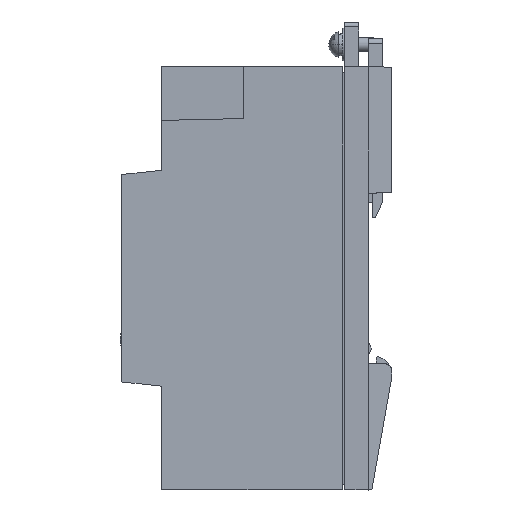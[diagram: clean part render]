
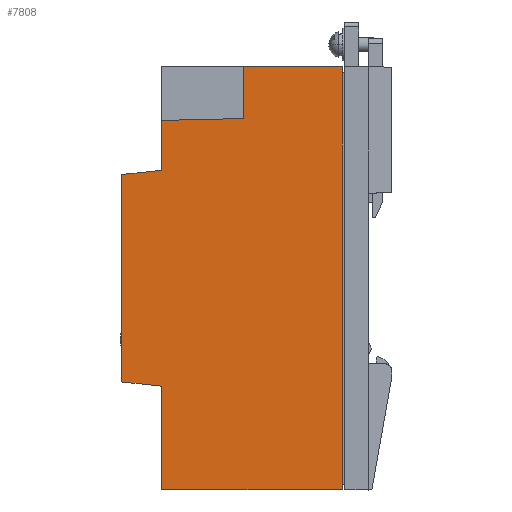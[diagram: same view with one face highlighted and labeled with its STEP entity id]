
A CAD part, left-side view. The second image highlights one B-rep face of the part: STEP entity #7808.
In plain terms, the highlighted planar face has unit normal (-1, 0, 0).
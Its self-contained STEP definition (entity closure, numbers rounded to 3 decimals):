
#78 = CARTESIAN_POINT ( 'NONE',  ( -157., 38.5, -45. ) ) ;
#395 = ORIENTED_EDGE ( 'NONE', *, *, #57551, .F. ) ;
#587 = ORIENTED_EDGE ( 'NONE', *, *, #53732, .T. ) ;
#923 = PLANE ( 'NONE',  #32064 ) ;
#1013 = CARTESIAN_POINT ( 'NONE',  ( -157., 21., 34. ) ) ;
#1277 = VECTOR ( 'NONE', #35099, 1000. ) ;
#2418 = CARTESIAN_POINT ( 'NONE',  ( -157., 0., 45. ) ) ;
#3192 = VECTOR ( 'NONE', #25997, 1000. ) ;
#3905 = CARTESIAN_POINT ( 'NONE',  ( -157., 21., 45. ) ) ;
#5249 = CARTESIAN_POINT ( 'NONE',  ( -157., 0., 45. ) ) ;
#5650 = EDGE_CURVE ( 'NONE', #27849, #24491, #40552, .T. ) ;
#6253 = VECTOR ( 'NONE', #32940, 1000. ) ;
#7218 = LINE ( 'NONE', #41295, #55283 ) ;
#7282 = DIRECTION ( 'NONE',  ( 1., 0., 0. ) ) ;
#7808 = ADVANCED_FACE ( 'NONE', ( #26344 ), #923, .F. ) ;
#8071 = ORIENTED_EDGE ( 'NONE', *, *, #14289, .F. ) ;
#10825 = VERTEX_POINT ( 'NONE', #20072 ) ;
#11443 = LINE ( 'NONE', #55427, #22424 ) ;
#11634 = VECTOR ( 'NONE', #41226, 1000. ) ;
#12149 = DIRECTION ( 'NONE',  ( 0., 0., -1. ) ) ;
#13090 = VECTOR ( 'NONE', #27187, 1000. ) ;
#14289 = EDGE_CURVE ( 'NONE', #17890, #27849, #37050, .T. ) ;
#14318 = CARTESIAN_POINT ( 'NONE',  ( -157., 0., -45. ) ) ;
#14790 = VERTEX_POINT ( 'NONE', #3905 ) ;
#15008 = VERTEX_POINT ( 'NONE', #1013 ) ;
#15751 = VECTOR ( 'NONE', #47589, 1000. ) ;
#16613 = VECTOR ( 'NONE', #33077, 1000. ) ;
#17065 = LINE ( 'NONE', #25786, #3192 ) ;
#17890 = VERTEX_POINT ( 'NONE', #55343 ) ;
#20072 = CARTESIAN_POINT ( 'NONE',  ( -157., 47., -22.08 ) ) ;
#20991 = ORIENTED_EDGE ( 'NONE', *, *, #21022, .T. ) ;
#21022 = EDGE_CURVE ( 'NONE', #14790, #15008, #17065, .T. ) ;
#22424 = VECTOR ( 'NONE', #36930, 1000. ) ;
#22519 = CARTESIAN_POINT ( 'NONE',  ( -157., 0., 45. ) ) ;
#24491 = VERTEX_POINT ( 'NONE', #50925 ) ;
#25786 = CARTESIAN_POINT ( 'NONE',  ( -157., 21., 45. ) ) ;
#25997 = DIRECTION ( 'NONE',  ( 0., 0., -1. ) ) ;
#26344 = FACE_OUTER_BOUND ( 'NONE', #44962, .T. ) ;
#27187 = DIRECTION ( 'NONE',  ( 0., 0., -1. ) ) ;
#27455 = DIRECTION ( 'NONE',  ( 0., -0.995, 0.105 ) ) ;
#27849 = VERTEX_POINT ( 'NONE', #34148 ) ;
#30415 = CARTESIAN_POINT ( 'NONE',  ( -157., 47., -22.08 ) ) ;
#31257 = EDGE_CURVE ( 'NONE', #24491, #10825, #49306, .T. ) ;
#32064 = AXIS2_PLACEMENT_3D ( 'NONE', #36698, #7282, #12149 ) ;
#32428 = LINE ( 'NONE', #46789, #6253 ) ;
#32940 = DIRECTION ( 'NONE',  ( 0., 1., -0.023 ) ) ;
#33077 = DIRECTION ( 'NONE',  ( 0., -1., 0. ) ) ;
#34148 = CARTESIAN_POINT ( 'NONE',  ( -157., 38.5, -45. ) ) ;
#35099 = DIRECTION ( 'NONE',  ( 0., 0.995, 0.105 ) ) ;
#36540 = CARTESIAN_POINT ( 'NONE',  ( -157., 47., 22.08 ) ) ;
#36698 = CARTESIAN_POINT ( 'NONE',  ( -157., 38.5, 22.973 ) ) ;
#36930 = DIRECTION ( 'NONE',  ( 0., 0., 1. ) ) ;
#37050 = LINE ( 'NONE', #14318, #49370 ) ;
#37899 = LINE ( 'NONE', #22519, #13090 ) ;
#40164 = ORIENTED_EDGE ( 'NONE', *, *, #5650, .F. ) ;
#40387 = EDGE_CURVE ( 'NONE', #49729, #49202, #7218, .T. ) ;
#40552 = LINE ( 'NONE', #78, #15751 ) ;
#40560 = ORIENTED_EDGE ( 'NONE', *, *, #52566, .F. ) ;
#40761 = CARTESIAN_POINT ( 'NONE',  ( -157., 47., 22.08 ) ) ;
#41226 = DIRECTION ( 'NONE',  ( 0., 0., 1. ) ) ;
#41295 = CARTESIAN_POINT ( 'NONE',  ( -157., 47., 22.08 ) ) ;
#42248 = DIRECTION ( 'NONE',  ( 0., 1., 0. ) ) ;
#42708 = CARTESIAN_POINT ( 'NONE',  ( -157., 38.5, 22.973 ) ) ;
#44962 = EDGE_LOOP ( 'NONE', ( #20991, #587, #50520, #55131, #395, #45131, #40164, #8071, #49505, #40560 ) ) ;
#45131 = ORIENTED_EDGE ( 'NONE', *, *, #31257, .F. ) ;
#46789 = CARTESIAN_POINT ( 'NONE',  ( -157., 21., 34. ) ) ;
#47589 = DIRECTION ( 'NONE',  ( 0., 0., 1. ) ) ;
#48773 = LINE ( 'NONE', #36540, #11634 ) ;
#49202 = VERTEX_POINT ( 'NONE', #42708 ) ;
#49306 = LINE ( 'NONE', #30415, #1277 ) ;
#49370 = VECTOR ( 'NONE', #42248, 1000. ) ;
#49505 = ORIENTED_EDGE ( 'NONE', *, *, #57545, .F. ) ;
#49729 = VERTEX_POINT ( 'NONE', #40761 ) ;
#50520 = ORIENTED_EDGE ( 'NONE', *, *, #50898, .F. ) ;
#50898 = EDGE_CURVE ( 'NONE', #49202, #59715, #11443, .T. ) ;
#50925 = CARTESIAN_POINT ( 'NONE',  ( -157., 38.5, -22.973 ) ) ;
#52566 = EDGE_CURVE ( 'NONE', #14790, #53874, #53757, .T. ) ;
#53732 = EDGE_CURVE ( 'NONE', #15008, #59715, #32428, .T. ) ;
#53757 = LINE ( 'NONE', #5249, #16613 ) ;
#53874 = VERTEX_POINT ( 'NONE', #2418 ) ;
#55131 = ORIENTED_EDGE ( 'NONE', *, *, #40387, .F. ) ;
#55283 = VECTOR ( 'NONE', #27455, 1000. ) ;
#55343 = CARTESIAN_POINT ( 'NONE',  ( -157., 0., -45. ) ) ;
#55427 = CARTESIAN_POINT ( 'NONE',  ( -157., 38.5, 45. ) ) ;
#57545 = EDGE_CURVE ( 'NONE', #53874, #17890, #37899, .T. ) ;
#57551 = EDGE_CURVE ( 'NONE', #10825, #49729, #48773, .T. ) ;
#58864 = CARTESIAN_POINT ( 'NONE',  ( -157., 38.5, 33.603 ) ) ;
#59715 = VERTEX_POINT ( 'NONE', #58864 ) ;
